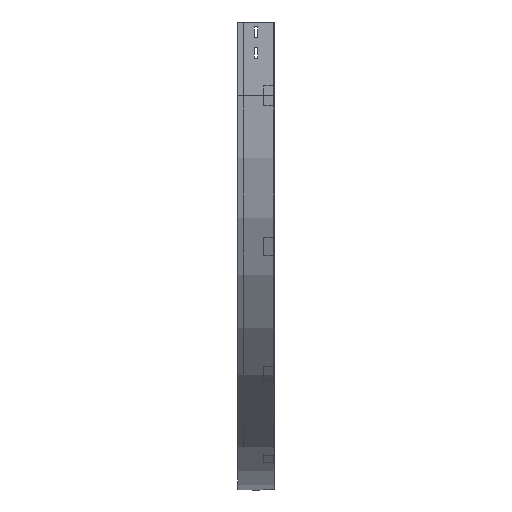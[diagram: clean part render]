
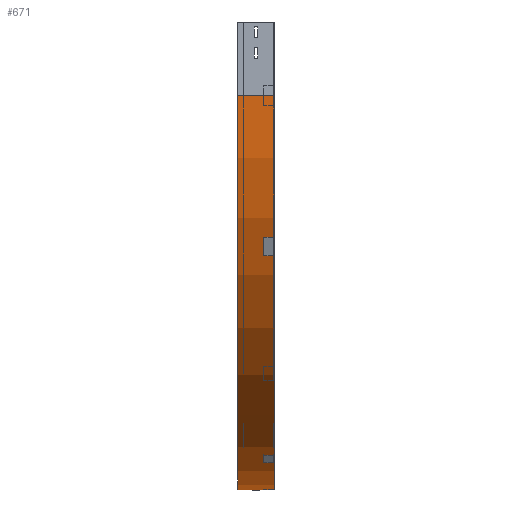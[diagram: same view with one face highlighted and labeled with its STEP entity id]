
A CAD part, left-side view. The second image highlights one B-rep face of the part: STEP entity #671.
In plain terms, the highlighted cylindrical face has radius 800 mm (diameter 1600 mm), a partial arc.
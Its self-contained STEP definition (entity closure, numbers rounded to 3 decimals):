
#117 = DIRECTION ( 'NONE',  ( 0., -1., 0. ) ) ;
#128 = VECTOR ( 'NONE', #2847, 1000. ) ;
#173 = AXIS2_PLACEMENT_3D ( 'NONE', #3241, #3003, #3625 ) ;
#205 = LINE ( 'NONE', #2869, #128 ) ;
#285 = CARTESIAN_POINT ( 'NONE',  ( 800., 0., -950. ) ) ;
#480 = VERTEX_POINT ( 'NONE', #3689 ) ;
#481 = CARTESIAN_POINT ( 'NONE',  ( 800., 0., -150. ) ) ;
#541 = LINE ( 'NONE', #2293, #777 ) ;
#649 = VERTEX_POINT ( 'NONE', #285 ) ;
#671 = ADVANCED_FACE ( 'NONE', ( #930 ), #845, .T. ) ;
#777 = VECTOR ( 'NONE', #2273, 1000. ) ;
#780 = EDGE_CURVE ( 'NONE', #480, #3279, #2727, .T. ) ;
#845 = CYLINDRICAL_SURFACE ( 'NONE', #173, 800. ) ;
#881 = ORIENTED_EDGE ( 'NONE', *, *, #3738, .F. ) ;
#898 = EDGE_LOOP ( 'NONE', ( #1712, #881, #3384, #2739 ) ) ;
#930 = FACE_OUTER_BOUND ( 'NONE', #898, .T. ) ;
#958 = CIRCLE ( 'NONE', #1135, 800. ) ;
#1000 = CARTESIAN_POINT ( 'NONE',  ( 800., 75., -150. ) ) ;
#1135 = AXIS2_PLACEMENT_3D ( 'NONE', #481, #3201, #1358 ) ;
#1313 = CARTESIAN_POINT ( 'NONE',  ( 800., 75., -950. ) ) ;
#1358 = DIRECTION ( 'NONE',  ( -1., 0., 0. ) ) ;
#1712 = ORIENTED_EDGE ( 'NONE', *, *, #2626, .F. ) ;
#2066 = CARTESIAN_POINT ( 'NONE',  ( 0., 0., -150. ) ) ;
#2079 = VERTEX_POINT ( 'NONE', #2066 ) ;
#2273 = DIRECTION ( 'NONE',  ( 0., -1., 0. ) ) ;
#2293 = CARTESIAN_POINT ( 'NONE',  ( 0., 0., -150. ) ) ;
#2297 = EDGE_CURVE ( 'NONE', #3279, #649, #205, .T. ) ;
#2626 = EDGE_CURVE ( 'NONE', #2079, #649, #958, .T. ) ;
#2727 = CIRCLE ( 'NONE', #3111, 800. ) ;
#2739 = ORIENTED_EDGE ( 'NONE', *, *, #2297, .T. ) ;
#2743 = DIRECTION ( 'NONE',  ( -1., 0., 0. ) ) ;
#2847 = DIRECTION ( 'NONE',  ( 0., -1., 0. ) ) ;
#2869 = CARTESIAN_POINT ( 'NONE',  ( 800., 0., -950. ) ) ;
#3003 = DIRECTION ( 'NONE',  ( 0., -1., 0. ) ) ;
#3111 = AXIS2_PLACEMENT_3D ( 'NONE', #1000, #117, #2743 ) ;
#3201 = DIRECTION ( 'NONE',  ( 0., -1., 0. ) ) ;
#3241 = CARTESIAN_POINT ( 'NONE',  ( 800., 0., -150. ) ) ;
#3279 = VERTEX_POINT ( 'NONE', #1313 ) ;
#3384 = ORIENTED_EDGE ( 'NONE', *, *, #780, .T. ) ;
#3625 = DIRECTION ( 'NONE',  ( 0., 0., -1. ) ) ;
#3689 = CARTESIAN_POINT ( 'NONE',  ( 0., 75., -150. ) ) ;
#3738 = EDGE_CURVE ( 'NONE', #480, #2079, #541, .T. ) ;
